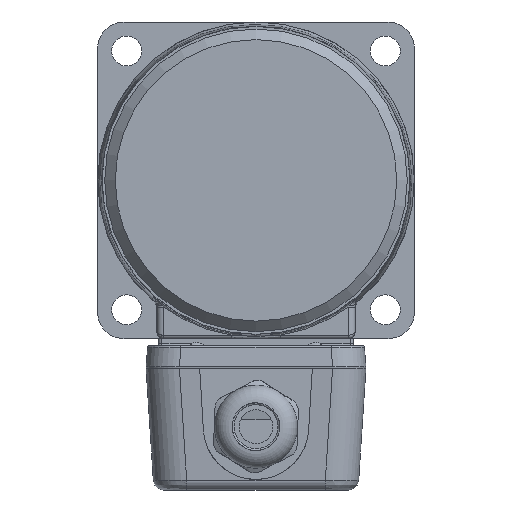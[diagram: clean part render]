
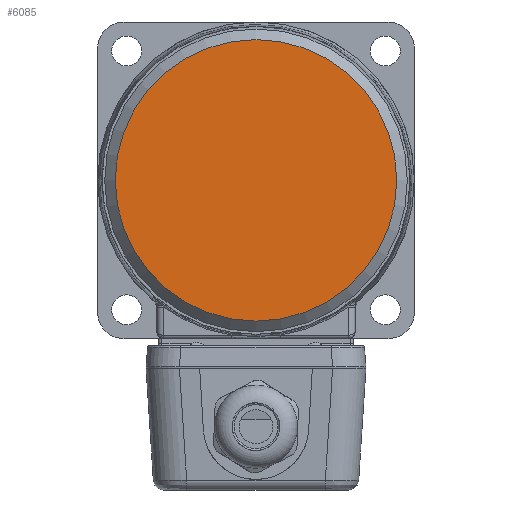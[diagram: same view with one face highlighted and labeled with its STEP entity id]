
A CAD part, left-side view. The second image highlights one B-rep face of the part: STEP entity #6085.
In plain terms, the highlighted planar face has unit normal (-1, 0, 0).
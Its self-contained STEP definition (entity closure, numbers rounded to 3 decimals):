
#447=CIRCLE('',#6464,40.);
#669=FACE_OUTER_BOUND('',#1036,.T.);
#1036=EDGE_LOOP('',(#3858));
#2407=VERTEX_POINT('',#8706);
#2983=EDGE_CURVE('',#2407,#2407,#447,.T.);
#3858=ORIENTED_EDGE('',*,*,#2983,.F.);
#5566=PLANE('',#6463);
#6085=ADVANCED_FACE('',(#669),#5566,.T.);
#6463=AXIS2_PLACEMENT_3D('',#8705,#7067,#7068);
#6464=AXIS2_PLACEMENT_3D('',#8707,#7069,#7070);
#7067=DIRECTION('center_axis',(-1.,0.,0.));
#7068=DIRECTION('ref_axis',(0.,0.,1.));
#7069=DIRECTION('center_axis',(1.,0.,0.));
#7070=DIRECTION('ref_axis',(0.,1.,0.));
#8705=CARTESIAN_POINT('Origin',(0.,20.,
0.));
#8706=CARTESIAN_POINT('',(0.,40.,0.));
#8707=CARTESIAN_POINT('Origin',(0.,0.,
0.));
